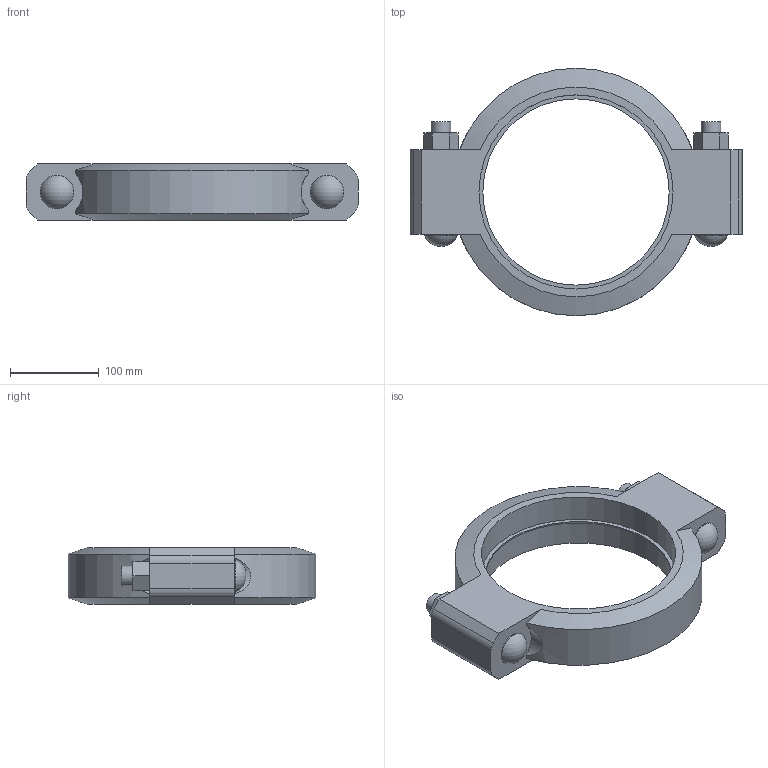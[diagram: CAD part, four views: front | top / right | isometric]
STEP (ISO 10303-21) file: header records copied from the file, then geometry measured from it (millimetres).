
FILE_DESCRIPTION(/* description */ ('Victaulic Standard Flexible Coupling Style 77','CAx-IF Rec.Pracs.---Representation and Presentation of Product Manufacturing Information (PMI)---4.0---2014-10-13'),/* implementation_level */ '2;1');
FILE_NAME(/* name */ 'C:\Users\Vjadhav\Desktop\CAD for Inventor\1\Coupling bolt thickness\77\Victaulic_IPS_Coupling Flexible_Style 77 (OGS)\Victaulic_IPS_Coupling Flexible_Style 77 (OGS)_8 (200).stp',/* time_stamp */ '2022-03-24T18:20:34+06:00',/* author */ ('CONSTRUCTION PIPING SERVICES'),/* organization */ ('Victaulic'),/* preprocessor_version */ 'ST-DEVELOPER v17.2',/* originating_system */ 'Autodesk Inventor 2019',/* authorisation */ '');
FILE_SCHEMA (('AP242_MANAGED_MODEL_BASED_3D_ENGINEERING_MIM_LF { 1 0 10303 442 1 1 4 }'));
Length unit declared in the file: inch
Products named in the file (1): 077-08.0
Bounding box: 374.65 x 279.4 x 63.5 mm (x, y, z)
Volume: 2031571.9 mm3; surface area: 210482.5 mm2
Topology: 1 solids, 3 shells, 61 faces, 142 edges, 95 vertices
Faces by surface type: plane 34, cylinder 21, cone 4, sphere 2
Full cylindrical faces by diameter (mm): 22.225 x4, 23.774 x2, 37.694 x2, 210.185 x1, 219.075 x2
Entity records: 2075 total; most frequent: CARTESIAN_POINT 448, DIRECTION 323, ORIENTED_EDGE 284, EDGE_CURVE 142, AXIS2_PLACEMENT_3D 118, VERTEX_POINT 95, LINE 87, VECTOR 87
